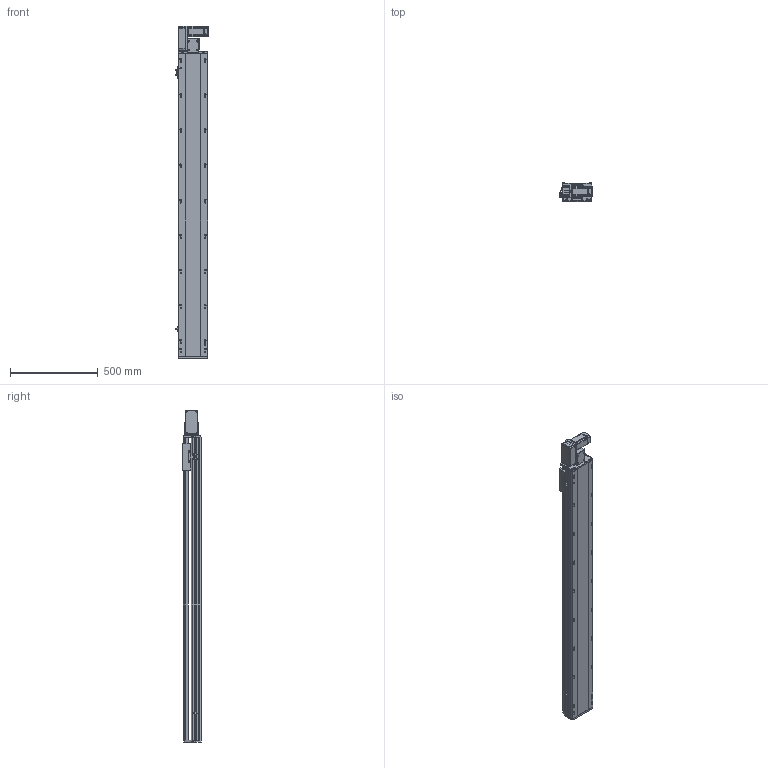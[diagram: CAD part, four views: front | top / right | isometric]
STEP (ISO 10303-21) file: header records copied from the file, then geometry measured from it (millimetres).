
FILE_DESCRIPTION (( 'STEP AP214' ), '1' );
FILE_NAME ('RTB17S-XX-1450-L-M40-C4.STEP', '2025-12-11T05:43:16', ( '' ), ( '' ), 'SwSTEP 2.0', 'SolidWorks 2018', '' );
FILE_SCHEMA (( 'AUTOMOTIVE_DESIGN' ));
Length unit declared in the file: millimetre
Products named in the file (14): RTB17S-L-004丝杆螺母连接座^RTB17S-XX-XX-L-M40-C4（方程式）; OMRON EE-SX672 传感器^RTB17S-XX-XX-L-M40-C4（方程式）; 400W伺服电机^RTB17S-XX-XX-L-M40-C4（方程式）; RTB14-L-018P^RTB17S-L-皮带座装配-400W_RTB17S-XX-XX-L-M40-C4（方程式）; RTB14-L-017P^RTB17S-L-皮带座装配-400W_RTB17S-XX-XX-L-M40-C4（方程式）; RTB14-L-008-M20--电机板^RTB17S-L-皮带座装配-400W_RTB17S-XX-XX-L-M40-C4（方程式）; RTB17S-L-007上盖^RTB17S-XX-XX-L-M40-C4（方程式）; RTB17S-L-皮带座装配-400W^RTB17S-XX-XX-L-M40-C4（方程式）; RTB17-R-011底座^RTB17S-XX-XX-L-M40-C4（方程式）; RTB14-L-005P--轴承塑胶压盖^RTB17S-L-皮带座装配-400W_RTB17S-XX-XX-L-M40-C4（方程式）; RTB17S-L-001侧面板^RTB17S-XX-XX-L-M40-C4（方程式）; RMP17S-L-014-T20--皮带座^RTB17S-L-皮带座装配-400W_RTB17S-XX-XX-L-M40-C4（方程式）; RTH13-BL-012感应片外置^RTB17S-XX-XX-L-M40-C4（方程式）; RTB17S-XX-1450-L-M40-C4
Assembly tree (16 placements, depth 3):
  RTB17S-XX-1450-L-M40-C4
    RTB17-R-011底座^RTB17S-XX-XX-L-M40-C4（方程式）
    RTB17S-L-007上盖^RTB17S-XX-XX-L-M40-C4（方程式）
    OMRON EE-SX672 传感器^RTB17S-XX-XX-L-M40-C4（方程式）  x3
    RTB17S-L-001侧面板^RTB17S-XX-XX-L-M40-C4（方程式）
    400W伺服电机^RTB17S-XX-XX-L-M40-C4（方程式）
    RTB17S-L-004丝杆螺母连接座^RTB17S-XX-XX-L-M40-C4（方程式）
    RTH13-BL-012感应片外置^RTB17S-XX-XX-L-M40-C4（方程式）
    RTB17S-L-皮带座装配-400W^RTB17S-XX-XX-L-M40-C4（方程式）
      RMP17S-L-014-T20--皮带座^RTB17S-L-皮带座装配-400W_RTB17S-XX-XX-L-M40-C4（方程式）
      RTB14-L-005P--轴承塑胶压盖^RTB17S-L-皮带座装配-400W_RTB17S-XX-XX-L-M40-C4（方程式）
      RTB14-L-008-M20--电机板^RTB17S-L-皮带座装配-400W_RTB17S-XX-XX-L-M40-C4（方程式）
      RTB14-L-017P^RTB17S-L-皮带座装配-400W_RTB17S-XX-XX-L-M40-C4（方程式）  x2
      RTB14-L-018P^RTB17S-L-皮带座装配-400W_RTB17S-XX-XX-L-M40-C4（方程式）
Bounding box: 186 x 108 x 1891 mm (x, y, z)
Volume: 16038831.2 mm3; surface area: 1900044.6 mm2
Topology: 15 solids, 15 shells, 2253 faces, 6249 edges, 4077 vertices
Faces by surface type: plane 1074, cylinder 731, bspline 301, cone 139, torus 8
Entity records: 64937 total; most frequent: CARTESIAN_POINT 18254, ORIENTED_EDGE 9342, DIRECTION 8666, EDGE_CURVE 4671, VERTEX_POINT 3065, AXIS2_PLACEMENT_3D 2995, LINE 2676, VECTOR 2676
